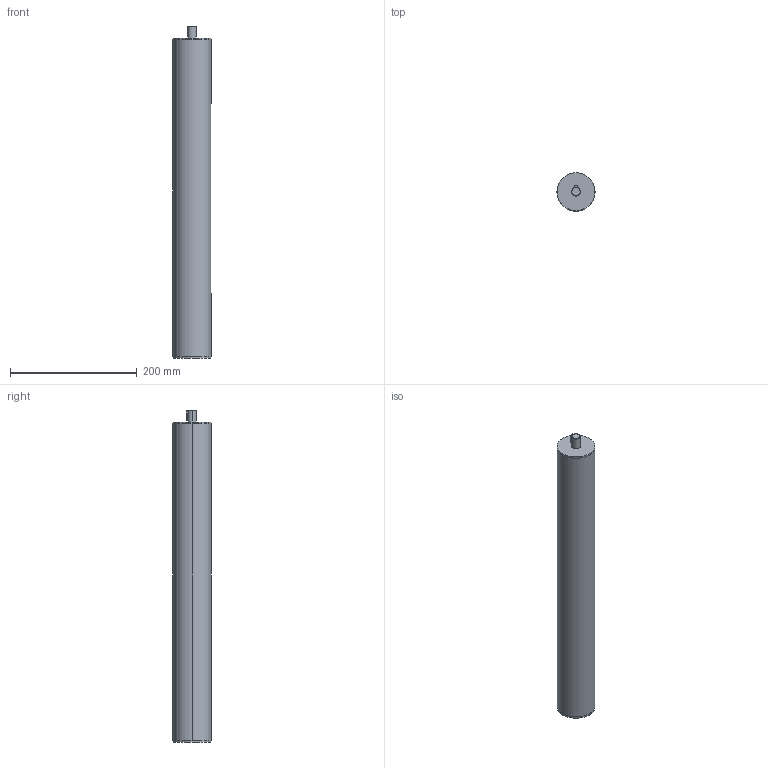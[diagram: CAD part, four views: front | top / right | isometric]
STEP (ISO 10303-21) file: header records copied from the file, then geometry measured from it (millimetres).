
FILE_DESCRIPTION (( 'STEP AP214' ), '1' );
FILE_NAME ('291-60-220-R1-SCR.step', '2023-08-30T05:22:12', ( '' ), ( '' ), 'SwSTEP 2.0', 'SolidWorks 2022', '' );
FILE_SCHEMA (( 'AUTOMOTIVE_DESIGN' ));
Length unit declared in the file: millimetre
Products named in the file (3): WB2910 mutter^WBVES_Tr24-M8; WB2910 Rund^WBVES_60-220-1; 291-60-220-R1-SCR
Assembly tree (2 placements, depth 2):
  291-60-220-R1-SCR
    WB2910 mutter^WBVES_Tr24-M8
    WB2910 Rund^WBVES_60-220-1
Bounding box: 60 x 60 x 524 mm (x, y, z)
Volume: 559830.4 mm3; surface area: 245274 mm2
Topology: 2 solids, 2 shells, 48 faces, 114 edges, 71 vertices
Faces by surface type: cylinder 25, plane 17, cone 6
Entity records: 1881 total; most frequent: CARTESIAN_POINT 450, DIRECTION 248, ORIENTED_EDGE 220, EDGE_CURVE 110, AXIS2_PLACEMENT_3D 97, VERTEX_POINT 71, EDGE_LOOP 57, VECTOR 54
